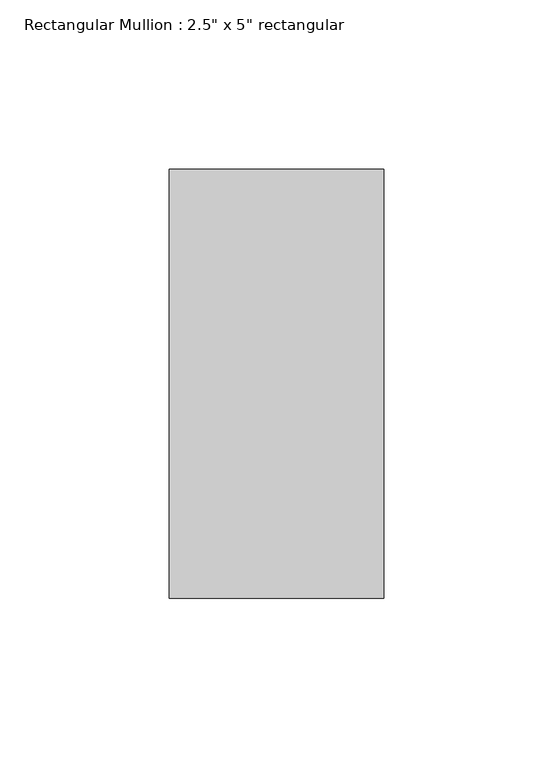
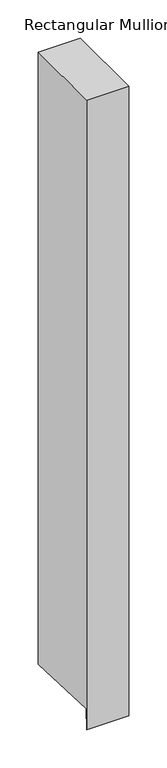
"""IFC4 building model written with IfcOpenShell, lengths in millimetres: member geometry."""

from ifc_helpers import new_model, si_unit, frame, origin, place, context, project, spatial, polyline, outline, extrude, source, transform, mapped, element, save


def member_4a18b865(model_context):
    return source(origin(), model_context, "Body", "SweptSolid", [
        extrude(outline(polyline([(-63.5, 0.0), (63.5, 0.0), (63.5, -978.8297614), (-62.043738, -973.3086309), (-63.5, -1006.4222437), (-63.5, 0.0)])), frame((-63.5, 0.0, 0.0), z_axis=(1.0, 0.0, 0.0), x_axis=(0.0, 1.0, 0.0)), (0.0, 0.0, 1.0), 63.5),
    ])


if __name__ == "__main__":
    model = new_model("IFC4")
    model_context = context("Model", 3, world=origin())
    ifc_project = project(units=[si_unit("LENGTHUNIT", "METRE", prefix="MILLI")], contexts=[model_context])
    site = spatial("IfcSite", under=ifc_project)
    building = spatial("IfcBuilding", under=site)
    placement = place(None, origin())
    member_shape = member_4a18b865(model_context)
    element("IfcMember", 1, ObjectType="Rectangular Mullion : 2.5\" x 5\" rectangular", at=placement, inside=building, context=model_context, shape_type="MappedRepresentation", body=[
        mapped(member_shape, transform((0.0, 0.0, 0.0), x_axis=(1.0, 0.0, 0.0), y_axis=(0.0, 1.0, 0.0), z_axis=(0.0, 0.0, 1.0))),
    ])
    save(model, "model.ifc")
